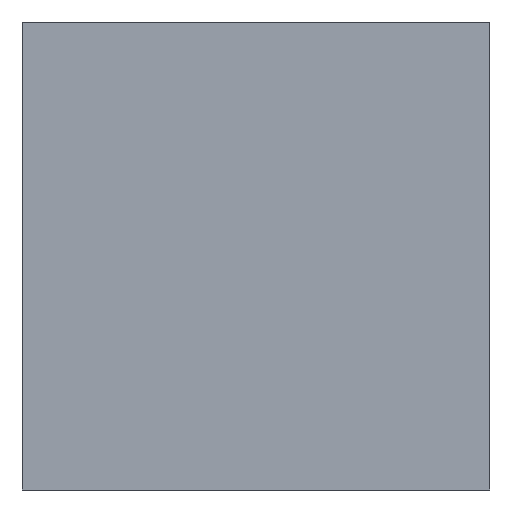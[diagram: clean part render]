
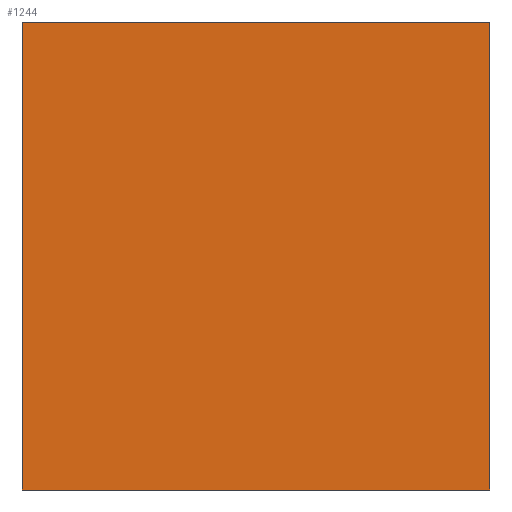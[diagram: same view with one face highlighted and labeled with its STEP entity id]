
A CAD part, left-side view. The second image highlights one B-rep face of the part: STEP entity #1244.
In plain terms, the highlighted planar face has unit normal (-1, 0, 0).
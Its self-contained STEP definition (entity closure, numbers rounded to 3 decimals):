
#50 = PLANE('',#51);
#51 = AXIS2_PLACEMENT_3D('',#52,#53,#54);
#52 = CARTESIAN_POINT('',(89.,-12.,0.));
#53 = DIRECTION('',(-0.,1.,0.));
#54 = DIRECTION('',(0.,0.,1.));
#75 = VERTEX_POINT('',#76);
#76 = CARTESIAN_POINT('',(86.,-12.,7.6));
#90 = PLANE('',#91);
#91 = AXIS2_PLACEMENT_3D('',#92,#93,#94);
#92 = CARTESIAN_POINT('',(86.,-12.,7.6));
#93 = DIRECTION('',(0.,0.,1.));
#94 = DIRECTION('',(1.,0.,-0.));
#102 = EDGE_CURVE('',#75,#103,#105,.T.);
#103 = VERTEX_POINT('',#104);
#104 = CARTESIAN_POINT('',(86.,-12.,31.6));
#105 = SURFACE_CURVE('',#106,(#110,#117),.PCURVE_S1.);
#106 = LINE('',#107,#108);
#107 = CARTESIAN_POINT('',(86.,-12.,7.6));
#108 = VECTOR('',#109,1.);
#109 = DIRECTION('',(0.,0.,1.));
#110 = PCURVE('',#50,#111);
#111 = DEFINITIONAL_REPRESENTATION('',(#112),#116);
#112 = LINE('',#113,#114);
#113 = CARTESIAN_POINT('',(7.6,-3.));
#114 = VECTOR('',#115,1.);
#115 = DIRECTION('',(1.,0.));
#116 = ( GEOMETRIC_REPRESENTATION_CONTEXT(2) 
PARAMETRIC_REPRESENTATION_CONTEXT() REPRESENTATION_CONTEXT('2D SPACE',''
  ) );
#117 = PCURVE('',#118,#123);
#118 = PLANE('',#119);
#119 = AXIS2_PLACEMENT_3D('',#120,#121,#122);
#120 = CARTESIAN_POINT('',(86.,-12.,7.6));
#121 = DIRECTION('',(1.,0.,-0.));
#122 = DIRECTION('',(0.,0.,1.));
#123 = DEFINITIONAL_REPRESENTATION('',(#124),#128);
#124 = LINE('',#125,#126);
#125 = CARTESIAN_POINT('',(0.,0.));
#126 = VECTOR('',#127,1.);
#127 = DIRECTION('',(1.,0.));
#128 = ( GEOMETRIC_REPRESENTATION_CONTEXT(2) 
PARAMETRIC_REPRESENTATION_CONTEXT() REPRESENTATION_CONTEXT('2D SPACE',''
  ) );
#146 = PLANE('',#147);
#147 = AXIS2_PLACEMENT_3D('',#148,#149,#150);
#148 = CARTESIAN_POINT('',(86.,-12.,31.6));
#149 = DIRECTION('',(0.,0.,1.));
#150 = DIRECTION('',(1.,0.,-0.));
#563 = PLANE('',#564);
#564 = AXIS2_PLACEMENT_3D('',#565,#566,#567);
#565 = CARTESIAN_POINT('',(89.,12.,0.));
#566 = DIRECTION('',(-0.,1.,0.));
#567 = DIRECTION('',(0.,0.,1.));
#622 = VERTEX_POINT('',#623);
#623 = CARTESIAN_POINT('',(86.,12.,7.6));
#644 = EDGE_CURVE('',#622,#645,#647,.T.);
#645 = VERTEX_POINT('',#646);
#646 = CARTESIAN_POINT('',(86.,12.,31.6));
#647 = SURFACE_CURVE('',#648,(#652,#659),.PCURVE_S1.);
#648 = LINE('',#649,#650);
#649 = CARTESIAN_POINT('',(86.,12.,7.6));
#650 = VECTOR('',#651,1.);
#651 = DIRECTION('',(0.,0.,1.));
#652 = PCURVE('',#563,#653);
#653 = DEFINITIONAL_REPRESENTATION('',(#654),#658);
#654 = LINE('',#655,#656);
#655 = CARTESIAN_POINT('',(7.6,-3.));
#656 = VECTOR('',#657,1.);
#657 = DIRECTION('',(1.,0.));
#658 = ( GEOMETRIC_REPRESENTATION_CONTEXT(2) 
PARAMETRIC_REPRESENTATION_CONTEXT() REPRESENTATION_CONTEXT('2D SPACE',''
  ) );
#659 = PCURVE('',#118,#660);
#660 = DEFINITIONAL_REPRESENTATION('',(#661),#665);
#661 = LINE('',#662,#663);
#662 = CARTESIAN_POINT('',(0.,-24.));
#663 = VECTOR('',#664,1.);
#664 = DIRECTION('',(1.,0.));
#665 = ( GEOMETRIC_REPRESENTATION_CONTEXT(2) 
PARAMETRIC_REPRESENTATION_CONTEXT() REPRESENTATION_CONTEXT('2D SPACE',''
  ) );
#1219 = EDGE_CURVE('',#103,#645,#1220,.T.);
#1220 = SURFACE_CURVE('',#1221,(#1225,#1232),.PCURVE_S1.);
#1221 = LINE('',#1222,#1223);
#1222 = CARTESIAN_POINT('',(86.,-12.,31.6));
#1223 = VECTOR('',#1224,1.);
#1224 = DIRECTION('',(-0.,1.,0.));
#1225 = PCURVE('',#146,#1226);
#1226 = DEFINITIONAL_REPRESENTATION('',(#1227),#1231);
#1227 = LINE('',#1228,#1229);
#1228 = CARTESIAN_POINT('',(0.,0.));
#1229 = VECTOR('',#1230,1.);
#1230 = DIRECTION('',(0.,1.));
#1231 = ( GEOMETRIC_REPRESENTATION_CONTEXT(2) 
PARAMETRIC_REPRESENTATION_CONTEXT() REPRESENTATION_CONTEXT('2D SPACE',''
  ) );
#1232 = PCURVE('',#118,#1233);
#1233 = DEFINITIONAL_REPRESENTATION('',(#1234),#1238);
#1234 = LINE('',#1235,#1236);
#1235 = CARTESIAN_POINT('',(24.,0.));
#1236 = VECTOR('',#1237,1.);
#1237 = DIRECTION('',(0.,-1.));
#1238 = ( GEOMETRIC_REPRESENTATION_CONTEXT(2) 
PARAMETRIC_REPRESENTATION_CONTEXT() REPRESENTATION_CONTEXT('2D SPACE',''
  ) );
#1244 = ADVANCED_FACE('',(#1245),#118,.F.);
#1245 = FACE_BOUND('',#1246,.F.);
#1246 = EDGE_LOOP('',(#1247,#1248,#1269,#1270));
#1247 = ORIENTED_EDGE('',*,*,#102,.F.);
#1248 = ORIENTED_EDGE('',*,*,#1249,.T.);
#1249 = EDGE_CURVE('',#75,#622,#1250,.T.);
#1250 = SURFACE_CURVE('',#1251,(#1255,#1262),.PCURVE_S1.);
#1251 = LINE('',#1252,#1253);
#1252 = CARTESIAN_POINT('',(86.,-12.,7.6));
#1253 = VECTOR('',#1254,1.);
#1254 = DIRECTION('',(-0.,1.,0.));
#1255 = PCURVE('',#118,#1256);
#1256 = DEFINITIONAL_REPRESENTATION('',(#1257),#1261);
#1257 = LINE('',#1258,#1259);
#1258 = CARTESIAN_POINT('',(0.,0.));
#1259 = VECTOR('',#1260,1.);
#1260 = DIRECTION('',(0.,-1.));
#1261 = ( GEOMETRIC_REPRESENTATION_CONTEXT(2) 
PARAMETRIC_REPRESENTATION_CONTEXT() REPRESENTATION_CONTEXT('2D SPACE',''
  ) );
#1262 = PCURVE('',#90,#1263);
#1263 = DEFINITIONAL_REPRESENTATION('',(#1264),#1268);
#1264 = LINE('',#1265,#1266);
#1265 = CARTESIAN_POINT('',(0.,0.));
#1266 = VECTOR('',#1267,1.);
#1267 = DIRECTION('',(0.,1.));
#1268 = ( GEOMETRIC_REPRESENTATION_CONTEXT(2) 
PARAMETRIC_REPRESENTATION_CONTEXT() REPRESENTATION_CONTEXT('2D SPACE',''
  ) );
#1269 = ORIENTED_EDGE('',*,*,#644,.T.);
#1270 = ORIENTED_EDGE('',*,*,#1219,.F.);
